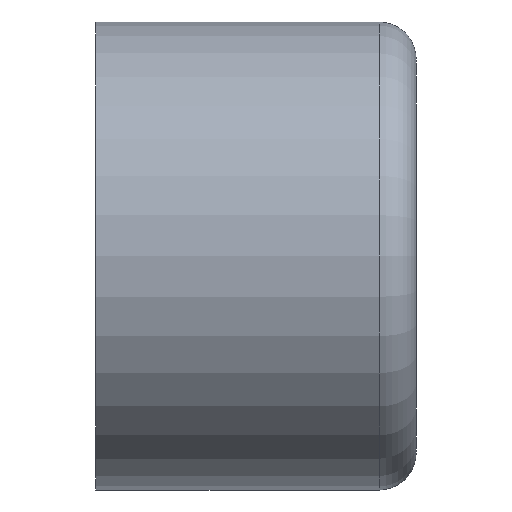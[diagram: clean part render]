
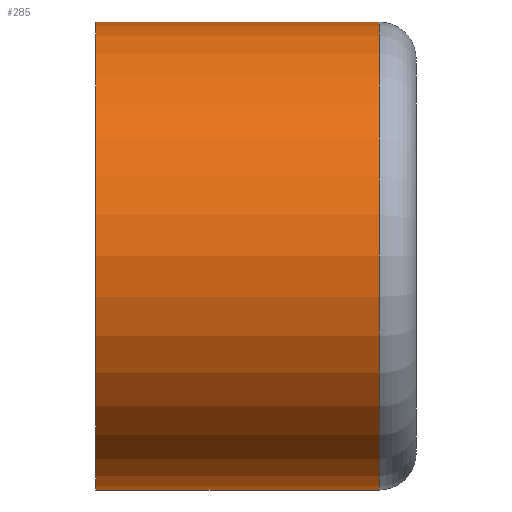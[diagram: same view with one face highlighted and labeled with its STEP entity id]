
A CAD part, left-side view. The second image highlights one B-rep face of the part: STEP entity #285.
In plain terms, the highlighted cylindrical face has radius 9.5 mm (diameter 19 mm), a partial arc.
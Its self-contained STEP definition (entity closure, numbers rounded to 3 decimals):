
#4 = EDGE_CURVE ( 'NONE', #167, #111, #244, .T. ) ;
#14 = DIRECTION ( 'NONE',  ( 0., 0., -1. ) ) ;
#33 = EDGE_LOOP ( 'NONE', ( #339, #298, #100, #177 ) ) ;
#36 = CARTESIAN_POINT ( 'NONE',  ( 0., 13., 0. ) ) ;
#38 = DIRECTION ( 'NONE',  ( 0., 1., 0. ) ) ;
#42 = DIRECTION ( 'NONE',  ( 0., -1., 0. ) ) ;
#71 = CARTESIAN_POINT ( 'NONE',  ( 0., 1.5, -9.5 ) ) ;
#100 = ORIENTED_EDGE ( 'NONE', *, *, #217, .T. ) ;
#108 = EDGE_CURVE ( 'NONE', #158, #111, #112, .T. ) ;
#111 = VERTEX_POINT ( 'NONE', #333 ) ;
#112 = CIRCLE ( 'NONE', #235, 9.5 ) ;
#115 = EDGE_CURVE ( 'NONE', #167, #260, #184, .T. ) ;
#142 = DIRECTION ( 'NONE',  ( 0., -1., 0. ) ) ;
#147 = CARTESIAN_POINT ( 'NONE',  ( 0., 13., 9.5 ) ) ;
#158 = VERTEX_POINT ( 'NONE', #71 ) ;
#163 = CARTESIAN_POINT ( 'NONE',  ( 0., 0., 9.5 ) ) ;
#167 = VERTEX_POINT ( 'NONE', #147 ) ;
#177 = ORIENTED_EDGE ( 'NONE', *, *, #108, .T. ) ;
#184 = CIRCLE ( 'NONE', #222, 9.5 ) ;
#205 = AXIS2_PLACEMENT_3D ( 'NONE', #338, #317, #270 ) ;
#217 = EDGE_CURVE ( 'NONE', #260, #158, #308, .T. ) ;
#222 = AXIS2_PLACEMENT_3D ( 'NONE', #36, #142, #14 ) ;
#224 = CARTESIAN_POINT ( 'NONE',  ( 0., 0., -9.5 ) ) ;
#233 = VECTOR ( 'NONE', #301, 1000. ) ;
#235 = AXIS2_PLACEMENT_3D ( 'NONE', #336, #38, #257 ) ;
#244 = LINE ( 'NONE', #163, #233 ) ;
#257 = DIRECTION ( 'NONE',  ( 0., 0., -1. ) ) ;
#260 = VERTEX_POINT ( 'NONE', #324 ) ;
#262 = CYLINDRICAL_SURFACE ( 'NONE', #205, 9.5 ) ;
#270 = DIRECTION ( 'NONE',  ( 0., 0., -1. ) ) ;
#285 = ADVANCED_FACE ( 'NONE', ( #286 ), #262, .T. ) ;
#286 = FACE_OUTER_BOUND ( 'NONE', #33, .T. ) ;
#298 = ORIENTED_EDGE ( 'NONE', *, *, #115, .T. ) ;
#301 = DIRECTION ( 'NONE',  ( 0., -1., 0. ) ) ;
#302 = VECTOR ( 'NONE', #42, 1000. ) ;
#308 = LINE ( 'NONE', #224, #302 ) ;
#317 = DIRECTION ( 'NONE',  ( 0., -1., 0. ) ) ;
#324 = CARTESIAN_POINT ( 'NONE',  ( 0., 13., -9.5 ) ) ;
#333 = CARTESIAN_POINT ( 'NONE',  ( 0., 1.5, 9.5 ) ) ;
#336 = CARTESIAN_POINT ( 'NONE',  ( 0., 1.5, 0. ) ) ;
#338 = CARTESIAN_POINT ( 'NONE',  ( 0., 0., 0. ) ) ;
#339 = ORIENTED_EDGE ( 'NONE', *, *, #4, .F. ) ;
